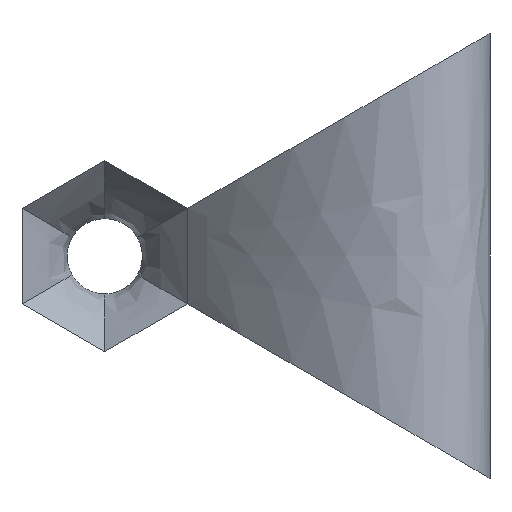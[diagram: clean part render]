
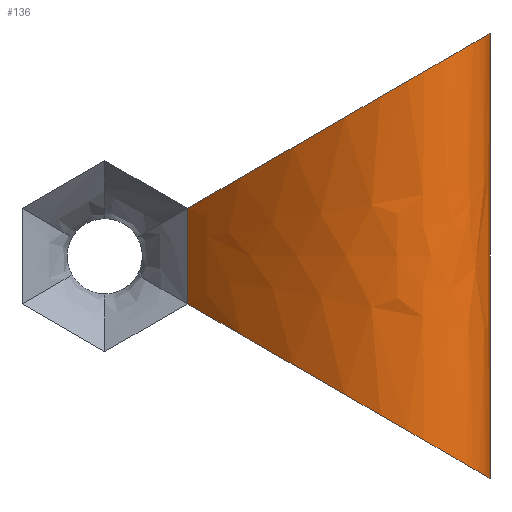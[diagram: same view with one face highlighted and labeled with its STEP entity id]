
A CAD part, top view. The second image highlights one B-rep face of the part: STEP entity #136.
In plain terms, the highlighted free-form (B-spline) face has degree [3, 3] with [13, 4] control points.
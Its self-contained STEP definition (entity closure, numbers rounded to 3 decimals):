
#19=FACE_OUTER_BOUND('',#26,.T.);
#26=EDGE_LOOP('',(#119,#120,#121,#122));
#33=LINE('',#1031,#41);
#34=LINE('',#1046,#42);
#41=VECTOR('',#180,150.111);
#42=VECTOR('',#181,32.231);
#49=B_SPLINE_CURVE_WITH_KNOTS('',3,(#1017,#1018,#1019,#1020,#1021,#1022,
#1023,#1024,#1025,#1026,#1027,#1028,#1029),.UNSPECIFIED.,.F.,.F.,(4,1,1,
1,1,1,1,1,1,1,4),(0.,0.143,0.286,0.429,
0.571,0.714,0.786,0.857,
0.929,0.964,1.),.UNSPECIFIED.);
#50=B_SPLINE_CURVE_WITH_KNOTS('',3,(#1033,#1034,#1035,#1036,#1037,#1038,
#1039,#1040,#1041,#1042,#1043,#1044,#1045),.UNSPECIFIED.,.F.,.F.,(4,1,1,
1,1,1,1,1,1,1,4),(0.,0.143,0.286,0.429,
0.571,0.714,0.786,0.857,
0.929,0.964,1.),.UNSPECIFIED.);
#69=VERTEX_POINT('',#1015);
#70=VERTEX_POINT('',#1016);
#71=VERTEX_POINT('',#1030);
#72=VERTEX_POINT('',#1032);
#91=EDGE_CURVE('',#69,#70,#49,.T.);
#92=EDGE_CURVE('',#70,#71,#33,.T.);
#93=EDGE_CURVE('',#72,#71,#50,.T.);
#94=EDGE_CURVE('',#69,#72,#34,.T.);
#119=ORIENTED_EDGE('',*,*,#91,.T.);
#120=ORIENTED_EDGE('',*,*,#92,.T.);
#121=ORIENTED_EDGE('',*,*,#93,.F.);
#122=ORIENTED_EDGE('',*,*,#94,.F.);
#129=B_SPLINE_SURFACE_WITH_KNOTS('',3,3,((#963,#964,#965,#966),(#967,#968,
#969,#970),(#971,#972,#973,#974),(#975,#976,#977,#978),(#979,#980,#981,
#982),(#983,#984,#985,#986),(#987,#988,#989,#990),(#991,#992,#993,#994),
(#995,#996,#997,#998),(#999,#1000,#1001,#1002),(#1003,#1004,#1005,#1006),
(#1007,#1008,#1009,#1010),(#1011,#1012,#1013,#1014)),.UNSPECIFIED.,.F.,
 .F.,.F.,(4,1,1,1,1,1,1,1,1,1,4),(4,4),(0.,0.143,0.286,
0.429,0.571,0.714,0.786,
0.857,0.929,0.964,1.),(0.,1.),
 .UNSPECIFIED.);
#136=ADVANCED_FACE('',(#19),#129,.T.);
#180=DIRECTION('',(0.,-1.,0.));
#181=DIRECTION('',(0.,-1.,0.));
#963=CARTESIAN_POINT('Ctrl Pts',(27.913,16.116,25.));
#964=CARTESIAN_POINT('Ctrl Pts',(27.913,5.372,25.));
#965=CARTESIAN_POINT('Ctrl Pts',(27.913,-5.372,25.));
#966=CARTESIAN_POINT('Ctrl Pts',(27.913,-16.116,25.));
#967=CARTESIAN_POINT('Ctrl Pts',(32.259,18.625,29.986));
#968=CARTESIAN_POINT('Ctrl Pts',(32.259,6.21,29.986));
#969=CARTESIAN_POINT('Ctrl Pts',(32.259,-6.21,29.986));
#970=CARTESIAN_POINT('Ctrl Pts',(32.259,-18.625,29.986));
#971=CARTESIAN_POINT('Ctrl Pts',(41.47,23.942,39.496));
#972=CARTESIAN_POINT('Ctrl Pts',(41.47,7.98,39.496));
#973=CARTESIAN_POINT('Ctrl Pts',(41.47,-7.98,39.496));
#974=CARTESIAN_POINT('Ctrl Pts',(41.47,-23.942,39.496));
#975=CARTESIAN_POINT('Ctrl Pts',(56.529,32.637,52.245));
#976=CARTESIAN_POINT('Ctrl Pts',(56.529,10.879,52.245));
#977=CARTESIAN_POINT('Ctrl Pts',(56.529,-10.879,52.245));
#978=CARTESIAN_POINT('Ctrl Pts',(56.529,-32.637,52.245));
#979=CARTESIAN_POINT('Ctrl Pts',(72.754,42.004,62.968));
#980=CARTESIAN_POINT('Ctrl Pts',(72.754,14.002,62.968));
#981=CARTESIAN_POINT('Ctrl Pts',(72.754,-14.002,62.968));
#982=CARTESIAN_POINT('Ctrl Pts',(72.754,-42.004,62.968));
#983=CARTESIAN_POINT('Ctrl Pts',(89.955,51.935,70.703));
#984=CARTESIAN_POINT('Ctrl Pts',(89.955,17.311,70.703));
#985=CARTESIAN_POINT('Ctrl Pts',(89.955,-17.311,70.703));
#986=CARTESIAN_POINT('Ctrl Pts',(89.955,-51.935,70.703));
#987=CARTESIAN_POINT('Ctrl Pts',(104.7,60.449,72.963));
#988=CARTESIAN_POINT('Ctrl Pts',(104.7,20.151,72.963));
#989=CARTESIAN_POINT('Ctrl Pts',(104.7,-20.151,72.963));
#990=CARTESIAN_POINT('Ctrl Pts',(104.7,-60.449,72.963));
#991=CARTESIAN_POINT('Ctrl Pts',(115.753,66.83,70.605));
#992=CARTESIAN_POINT('Ctrl Pts',(115.753,22.276,70.605));
#993=CARTESIAN_POINT('Ctrl Pts',(115.753,-22.276,70.605));
#994=CARTESIAN_POINT('Ctrl Pts',(115.753,-66.83,70.605));
#995=CARTESIAN_POINT('Ctrl Pts',(123.028,71.031,66.505));
#996=CARTESIAN_POINT('Ctrl Pts',(123.028,23.677,66.505));
#997=CARTESIAN_POINT('Ctrl Pts',(123.028,-23.677,66.505));
#998=CARTESIAN_POINT('Ctrl Pts',(123.028,-71.031,66.505));
#999=CARTESIAN_POINT('Ctrl Pts',(127.609,73.675,61.021));
#1000=CARTESIAN_POINT('Ctrl Pts',(127.609,24.559,61.021));
#1001=CARTESIAN_POINT('Ctrl Pts',(127.609,-24.559,61.021));
#1002=CARTESIAN_POINT('Ctrl Pts',(127.609,-73.675,61.021));
#1003=CARTESIAN_POINT('Ctrl Pts',(129.621,74.837,55.651));
#1004=CARTESIAN_POINT('Ctrl Pts',(129.621,24.945,55.651));
#1005=CARTESIAN_POINT('Ctrl Pts',(129.621,-24.945,55.651));
#1006=CARTESIAN_POINT('Ctrl Pts',(129.621,-74.837,55.651));
#1007=CARTESIAN_POINT('Ctrl Pts',(129.98,75.044,52.711));
#1008=CARTESIAN_POINT('Ctrl Pts',(129.98,25.016,52.711));
#1009=CARTESIAN_POINT('Ctrl Pts',(129.98,-25.016,52.711));
#1010=CARTESIAN_POINT('Ctrl Pts',(129.98,-75.044,52.711));
#1011=CARTESIAN_POINT('Ctrl Pts',(130.,75.056,51.172));
#1012=CARTESIAN_POINT('Ctrl Pts',(130.,25.019,51.172));
#1013=CARTESIAN_POINT('Ctrl Pts',(130.,-25.019,51.172));
#1014=CARTESIAN_POINT('Ctrl Pts',(130.,-75.056,51.172));
#1015=CARTESIAN_POINT('',(27.913,16.116,25.));
#1016=CARTESIAN_POINT('',(130.,75.056,51.172));
#1017=CARTESIAN_POINT('Ctrl Pts',(27.913,16.116,25.));
#1018=CARTESIAN_POINT('Ctrl Pts',(32.259,18.625,29.986));
#1019=CARTESIAN_POINT('Ctrl Pts',(41.47,23.942,39.496));
#1020=CARTESIAN_POINT('Ctrl Pts',(56.529,32.637,52.245));
#1021=CARTESIAN_POINT('Ctrl Pts',(72.754,42.004,62.968));
#1022=CARTESIAN_POINT('Ctrl Pts',(89.955,51.935,70.703));
#1023=CARTESIAN_POINT('Ctrl Pts',(104.7,60.449,72.963));
#1024=CARTESIAN_POINT('Ctrl Pts',(115.753,66.83,70.605));
#1025=CARTESIAN_POINT('Ctrl Pts',(123.028,71.031,66.505));
#1026=CARTESIAN_POINT('Ctrl Pts',(127.609,73.675,61.021));
#1027=CARTESIAN_POINT('Ctrl Pts',(129.621,74.837,55.651));
#1028=CARTESIAN_POINT('Ctrl Pts',(129.98,75.044,52.711));
#1029=CARTESIAN_POINT('Ctrl Pts',(130.,75.056,51.172));
#1030=CARTESIAN_POINT('',(130.,-75.056,51.172));
#1031=CARTESIAN_POINT('',(130.,75.056,51.172));
#1032=CARTESIAN_POINT('',(27.913,-16.116,25.));
#1033=CARTESIAN_POINT('Ctrl Pts',(27.913,-16.116,25.));
#1034=CARTESIAN_POINT('Ctrl Pts',(32.259,-18.625,29.986));
#1035=CARTESIAN_POINT('Ctrl Pts',(41.47,-23.942,39.496));
#1036=CARTESIAN_POINT('Ctrl Pts',(56.529,-32.637,52.245));
#1037=CARTESIAN_POINT('Ctrl Pts',(72.754,-42.004,62.968));
#1038=CARTESIAN_POINT('Ctrl Pts',(89.955,-51.935,70.703));
#1039=CARTESIAN_POINT('Ctrl Pts',(104.7,-60.449,72.963));
#1040=CARTESIAN_POINT('Ctrl Pts',(115.753,-66.83,70.605));
#1041=CARTESIAN_POINT('Ctrl Pts',(123.028,-71.031,66.505));
#1042=CARTESIAN_POINT('Ctrl Pts',(127.609,-73.675,61.021));
#1043=CARTESIAN_POINT('Ctrl Pts',(129.621,-74.837,55.651));
#1044=CARTESIAN_POINT('Ctrl Pts',(129.98,-75.044,52.711));
#1045=CARTESIAN_POINT('Ctrl Pts',(130.,-75.056,51.172));
#1046=CARTESIAN_POINT('',(27.913,16.116,25.));
